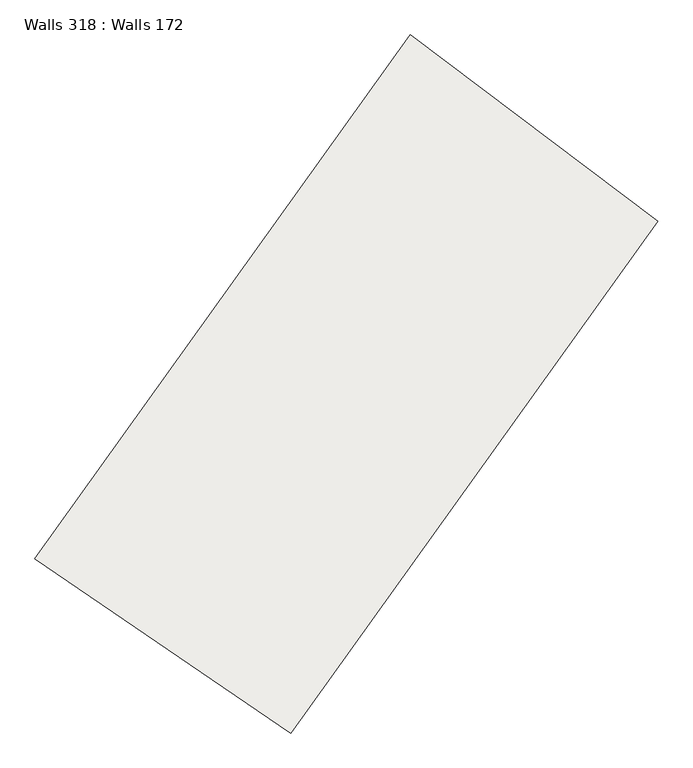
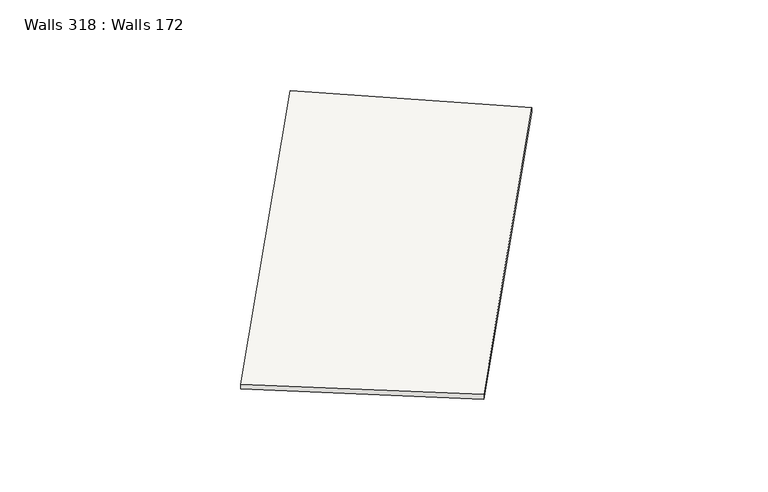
"""IFC4 building model written with IfcOpenShell, lengths in millimetres: slab geometry, Walls 318 : Walls 172."""

from ifc_helpers import new_model, si_unit, frame, origin, place, context, project, spatial, source, transform, mapped, element, save
from ifc_brep_helpers import plane_surface, spline_curve, spline_surface, advanced_brep


def walls_318_walls_172_d5e50232(model_context):
    return source(origin(), model_context, "Body", "AdvancedBrep", [
        advanced_brep(
        [(215762.3608845, 118922.8756049, 641860.0), (219234.5564134, 116559.8567287, 641860.0), (219234.5564134, 116559.8567287, 641960.0), (215762.3608845, 118922.8756049, 641960.0), (220854.3962418, 126029.5686888, 641960.0), (220854.3962418, 126029.5686888, 642060.0), (224208.3687275, 123501.5519632, 642060.0), (224208.3687275, 123501.5519632, 641960.0)],
        [
            (0, 1),
            (1, 2),
            (2, 3),
            (3, 0),
            (4, 5),
            (5, 6),
            (6, 7),
            (7, 4),
            (5, 3, spline_curve(3, [(220854.3962418, 126029.5686888, 642060.0), (219100.133207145, 123702.151353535, 642026.666666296), (217402.127197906, 121332.331287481, 641993.333333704), (215762.3608845, 118922.8756049, 641960.0)], [4, 4], [0.0, 28.354573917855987])),
            (2, 6, spline_curve(3, [(219234.5564134, 116559.8567287, 641960.0), (220836.25186647, 118913.371483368, 641993.333333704), (222494.834851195, 121228.170850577, 642026.666666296), (224208.3687275, 123501.5519632, 642060.0)], [4, 4], [0.0, 28.354573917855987])),
            (7, 1, spline_curve(3, [(224208.3687275, 123501.5519632, 641960.0), (222494.834851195, 121228.170850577, 641926.666666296), (220836.25186647, 118913.371483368, 641893.333333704), (219234.5564134, 116559.8567287, 641860.0)], [4, 4], [0.0, 28.354573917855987])),
            (0, 4, spline_curve(3, [(215762.3608845, 118922.8756049, 641860.0), (217402.127197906, 121332.331287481, 641893.333333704), (219100.133207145, 123702.151353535, 641926.666666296), (220854.3962418, 126029.5686888, 641960.0)], [4, 4], [0.0, 28.354573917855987])),
        ],
        [
            plane_surface(frame((217498.458649, 117741.3661668, 641910.0), z_axis=(-0.5626235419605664, -0.826713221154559, 0.0), x_axis=(0.826713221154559, -0.5626235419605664, 0.0))),
            plane_surface(frame((222531.3824846, 124765.560326, 642010.0), z_axis=(0.6019087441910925, 0.7985648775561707, 0.0), x_axis=(0.7985648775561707, -0.6019087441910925, 0.0))),
            spline_surface(3, 3, [[(224208.3687275, 123501.5519632, 642060.0), (222494.83485093, 121228.170850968, 642026.666666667), (220836.251866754, 118913.371483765, 641993.333333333), (219234.5564134, 116559.8567287, 641960.0)], [(223090.377898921, 124344.224205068, 642060.0), (221363.267636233, 122052.831018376, 642026.666666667), (219691.543643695, 119719.691418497, 641993.333333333), (218077.157903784, 117347.529687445, 641960.0)], [(221972.387070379, 125186.896446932, 642060.0), (220231.700421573, 122877.491185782, 642026.666666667), (218546.835420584, 120526.011353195, 641993.333333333), (216919.759394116, 118135.202646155, 641960.0)], [(220854.3962418, 126029.5686888, 642060.0), (219100.133206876, 123702.15135319, 642026.666666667), (217402.127197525, 121332.331287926, 641993.333333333), (215762.3608845, 118922.8756049, 641960.0)]], [4, 4], [4, 4], [0.0, 13.779527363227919], [0.0, 28.354573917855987]),
            spline_surface(3, 3, [[(220854.3962418, 126029.5686888, 641960.0), (219100.133206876, 123702.15135319, 641926.666666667), (217402.127197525, 121332.331287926, 641893.333333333), (215762.3608845, 118922.8756049, 641860.0)], [(221972.387070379, 125186.896446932, 641960.0), (220231.700421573, 122877.491185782, 641926.666666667), (218546.835420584, 120526.011353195, 641893.333333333), (216919.759394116, 118135.202646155, 641860.0)], [(223090.377898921, 124344.224205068, 641960.0), (221363.267636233, 122052.831018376, 641926.666666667), (219691.543643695, 119719.691418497, 641893.333333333), (218077.157903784, 117347.529687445, 641860.0)], [(224208.3687275, 123501.5519632, 641960.0), (222494.83485093, 121228.170850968, 641926.666666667), (220836.251866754, 118913.371483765, 641893.333333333), (219234.5564134, 116559.8567287, 641860.0)]], [4, 4], [4, 4], [0.0, 13.779527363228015], [0.0, 28.354573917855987]),
            spline_surface(3, 3, [[(224208.3687275, 123501.5519632, 641960.0), (222494.83485093, 121228.170850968, 641926.666666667), (220836.251866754, 118913.371483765, 641893.333333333), (219234.5564134, 116559.8567287, 641860.0)], [(224208.3687275, 123501.5519632, 641993.333333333), (222494.83485093, 121228.170850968, 641960.0), (220836.251866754, 118913.371483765, 641926.666666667), (219234.5564134, 116559.8567287, 641893.333333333)], [(224208.3687275, 123501.5519632, 642026.666666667), (222494.83485093, 121228.170850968, 641993.333333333), (220836.251866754, 118913.371483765, 641960.0), (219234.5564134, 116559.8567287, 641926.666666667)], [(224208.3687275, 123501.5519632, 642060.0), (222494.83485093, 121228.170850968, 642026.666666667), (220836.251866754, 118913.371483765, 641993.333333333), (219234.5564134, 116559.8567287, 641960.0)]], [4, 4], [4, 4], [0.0, 0.3280839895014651], [0.0, 28.021595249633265]),
            spline_surface(3, 3, [[(220854.3962418, 126029.5686888, 642060.0), (219100.133206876, 123702.15135319, 642026.666666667), (217402.127197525, 121332.331287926, 641993.333333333), (215762.3608845, 118922.8756049, 641960.0)], [(220854.3962418, 126029.5686888, 642026.666666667), (219100.133206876, 123702.15135319, 641993.333333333), (217402.127197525, 121332.331287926, 641960.0), (215762.3608845, 118922.8756049, 641926.666666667)], [(220854.3962418, 126029.5686888, 641993.333333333), (219100.133206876, 123702.15135319, 641960.0), (217402.127197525, 121332.331287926, 641926.666666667), (215762.3608845, 118922.8756049, 641893.333333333)], [(220854.3962418, 126029.5686888, 641960.0), (219100.133206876, 123702.15135319, 641926.666666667), (217402.127197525, 121332.331287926, 641893.333333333), (215762.3608845, 118922.8756049, 641860.0)]], [4, 4], [4, 4], [0.0, 0.3280839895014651], [0.0, 28.68755310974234]),
        ],
        [
            (0, [[1, 2, 3, 4]]),
            (1, [[5, 6, 7, 8]]),
            (2, [[-6, 9, -3, 10]]),
            (3, [[-8, 11, -1, 12]]),
            (4, [[-7, -10, -2, -11]]),
            (5, [[-5, -12, -4, -9]]),
        ],
    ),
    ])


if __name__ == "__main__":
    model = new_model("IFC4")
    model_context = context("Model", 3, world=origin())
    ifc_project = project(units=[si_unit("LENGTHUNIT", "METRE", prefix="MILLI")], contexts=[model_context])
    site = spatial("IfcSite", under=ifc_project)
    building = spatial("IfcBuilding", under=site)
    placement = place(None, origin())
    walls_318_walls_172_shape = walls_318_walls_172_d5e50232(model_context)
    element("IfcSlab", 1, ObjectType="Walls 318 : Walls 172", at=placement, inside=building, context=model_context, shape_type="MappedRepresentation", body=[
        mapped(walls_318_walls_172_shape, transform((0.0, 0.0, 0.0), x_axis=(1.0, 0.0, 0.0), y_axis=(0.0, 1.0, 0.0), z_axis=(0.0, 0.0, 1.0))),
    ])
    save(model, "model.ifc")
